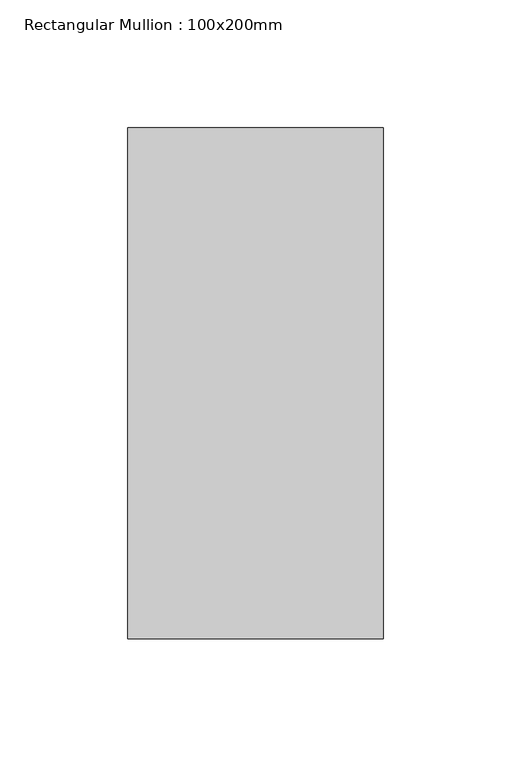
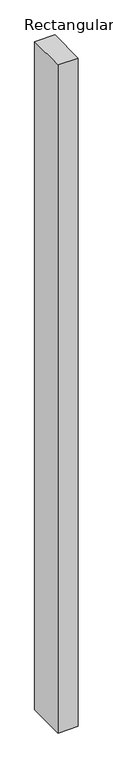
"""IFC4 building model written with IfcOpenShell, lengths in millimetres: member geometry, Rectangular Mullion : 100x200mm."""

from ifc_helpers import new_model, si_unit, frame, origin, place, context, project, spatial, polyline, outline, extrude, source, transform, mapped, element, save


def rectangular_mullion_100x200mm_554c15c1(model_context):
    return source(origin(), model_context, "Body", "SweptSolid", [
        extrude(outline(polyline([(0.0, 100.0), (0.0, -100.0), (-100.0, -100.0), (-100.0, 100.0), (0.0, 100.0)])), frame((0.0, 0.0, -3500.0), z_axis=(0.0, 0.0, 1.0), x_axis=(1.0, 0.0, 0.0)), (0.0, 0.0, 1.0), 3500.0),
    ])


if __name__ == "__main__":
    model = new_model("IFC4")
    model_context = context("Model", 3, world=origin())
    ifc_project = project(units=[si_unit("LENGTHUNIT", "METRE", prefix="MILLI")], contexts=[model_context])
    site = spatial("IfcSite", under=ifc_project)
    building = spatial("IfcBuilding", under=site)
    placement = place(None, origin())
    rectangular_mullion_100x200mm_shape = rectangular_mullion_100x200mm_554c15c1(model_context)
    element("IfcMember", 1, ObjectType="Rectangular Mullion : 100x200mm", at=placement, inside=building, context=model_context, shape_type="MappedRepresentation", body=[
        mapped(rectangular_mullion_100x200mm_shape, transform((0.0, 0.0, 0.0), x_axis=(1.0, 0.0, 0.0), y_axis=(0.0, 1.0, 0.0), z_axis=(0.0, 0.0, 1.0))),
    ])
    save(model, "model.ifc")
